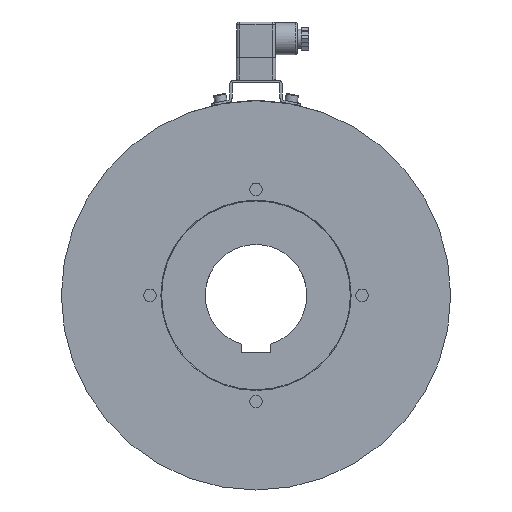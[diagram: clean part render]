
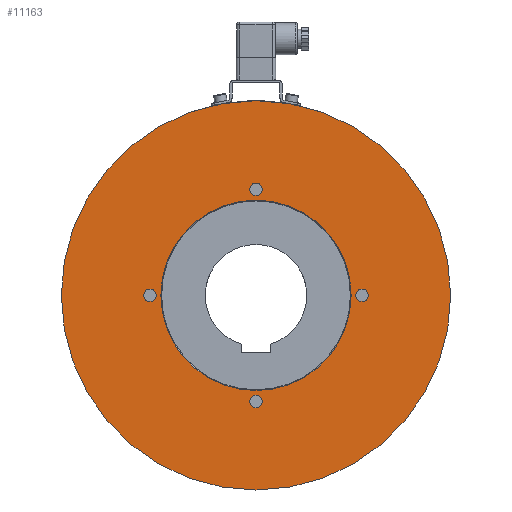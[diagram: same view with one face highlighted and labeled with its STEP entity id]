
A CAD part, left-side view. The second image highlights one B-rep face of the part: STEP entity #11163.
In plain terms, the highlighted planar face has unit normal (-1, 0, 0).
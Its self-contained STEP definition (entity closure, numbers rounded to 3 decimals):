
#150=FACE_BOUND('',#1161,.T.);
#151=FACE_BOUND('',#1162,.T.);
#152=FACE_BOUND('',#1163,.T.);
#153=FACE_BOUND('',#1164,.T.);
#154=FACE_BOUND('',#1165,.T.);
#296=PLANE('',#11922);
#565=FACE_OUTER_BOUND('',#1160,.T.);
#1160=EDGE_LOOP('',(#7455,#7456,#7457));
#1161=EDGE_LOOP('',(#7458,#7459));
#1162=EDGE_LOOP('',(#7460,#7461));
#1163=EDGE_LOOP('',(#7462,#7463));
#1164=EDGE_LOOP('',(#7464,#7465));
#1165=EDGE_LOOP('',(#7466));
#1803=CIRCLE('',#11673,134.);
#1804=CIRCLE('',#11674,134.);
#1939=CIRCLE('',#11885,134.);
#1943=CIRCLE('',#11891,65.5);
#1946=CIRCLE('',#11899,4.25);
#1947=CIRCLE('',#11900,4.25);
#1948=CIRCLE('',#11902,4.25);
#1949=CIRCLE('',#11903,4.25);
#1950=CIRCLE('',#11905,4.25);
#1951=CIRCLE('',#11906,4.25);
#1952=CIRCLE('',#11908,4.25);
#1953=CIRCLE('',#11909,4.25);
#4033=VERTEX_POINT('',#16958);
#4034=VERTEX_POINT('',#16960);
#4035=VERTEX_POINT('',#16962);
#4244=VERTEX_POINT('',#17765);
#4246=VERTEX_POINT('',#17800);
#4247=VERTEX_POINT('',#17801);
#4248=VERTEX_POINT('',#17806);
#4249=VERTEX_POINT('',#17807);
#4250=VERTEX_POINT('',#17812);
#4251=VERTEX_POINT('',#17813);
#4252=VERTEX_POINT('',#17818);
#4253=VERTEX_POINT('',#17819);
#5174=EDGE_CURVE('',#4034,#4033,#1803,.T.);
#5175=EDGE_CURVE('',#4035,#4034,#1804,.T.);
#5449=EDGE_CURVE('',#4033,#4035,#1939,.T.);
#5459=EDGE_CURVE('',#4244,#4244,#1943,.T.);
#5467=EDGE_CURVE('',#4246,#4247,#1946,.T.);
#5468=EDGE_CURVE('',#4247,#4246,#1947,.T.);
#5470=EDGE_CURVE('',#4248,#4249,#1948,.T.);
#5471=EDGE_CURVE('',#4249,#4248,#1949,.T.);
#5473=EDGE_CURVE('',#4250,#4251,#1950,.T.);
#5474=EDGE_CURVE('',#4251,#4250,#1951,.T.);
#5476=EDGE_CURVE('',#4252,#4253,#1952,.T.);
#5477=EDGE_CURVE('',#4253,#4252,#1953,.T.);
#7455=ORIENTED_EDGE('',*,*,#5174,.T.);
#7456=ORIENTED_EDGE('',*,*,#5449,.T.);
#7457=ORIENTED_EDGE('',*,*,#5175,.T.);
#7458=ORIENTED_EDGE('',*,*,#5476,.T.);
#7459=ORIENTED_EDGE('',*,*,#5477,.T.);
#7460=ORIENTED_EDGE('',*,*,#5473,.T.);
#7461=ORIENTED_EDGE('',*,*,#5474,.T.);
#7462=ORIENTED_EDGE('',*,*,#5470,.T.);
#7463=ORIENTED_EDGE('',*,*,#5471,.T.);
#7464=ORIENTED_EDGE('',*,*,#5467,.T.);
#7465=ORIENTED_EDGE('',*,*,#5468,.T.);
#7466=ORIENTED_EDGE('',*,*,#5459,.F.);
#11163=ADVANCED_FACE('',(#565,#150,#151,#152,#153,#154),#296,.T.);
#11673=AXIS2_PLACEMENT_3D('',#16961,#13230,#13231);
#11674=AXIS2_PLACEMENT_3D('',#16963,#13232,#13233);
#11885=AXIS2_PLACEMENT_3D('',#17715,#13765,#13766);
#11891=AXIS2_PLACEMENT_3D('',#17767,#13781,#13782);
#11899=AXIS2_PLACEMENT_3D('',#17802,#13799,#13800);
#11900=AXIS2_PLACEMENT_3D('',#17803,#13801,#13802);
#11902=AXIS2_PLACEMENT_3D('',#17808,#13806,#13807);
#11903=AXIS2_PLACEMENT_3D('',#17809,#13808,#13809);
#11905=AXIS2_PLACEMENT_3D('',#17814,#13813,#13814);
#11906=AXIS2_PLACEMENT_3D('',#17815,#13815,#13816);
#11908=AXIS2_PLACEMENT_3D('',#17820,#13820,#13821);
#11909=AXIS2_PLACEMENT_3D('',#17821,#13822,#13823);
#11922=AXIS2_PLACEMENT_3D('',#17845,#13851,#13852);
#13230=DIRECTION('center_axis',(-1.,0.,0.));
#13231=DIRECTION('ref_axis',(0.,1.,0.));
#13232=DIRECTION('center_axis',(-1.,0.,0.));
#13233=DIRECTION('ref_axis',(0.,1.,0.));
#13765=DIRECTION('center_axis',(-1.,0.,0.));
#13766=DIRECTION('ref_axis',(0.,1.,0.));
#13781=DIRECTION('center_axis',(-1.,0.,0.));
#13782=DIRECTION('ref_axis',(0.,-1.,0.));
#13799=DIRECTION('center_axis',(1.,0.,0.));
#13800=DIRECTION('ref_axis',(0.,1.,0.));
#13801=DIRECTION('center_axis',(1.,0.,0.));
#13802=DIRECTION('ref_axis',(0.,1.,0.));
#13806=DIRECTION('center_axis',(1.,0.,0.));
#13807=DIRECTION('ref_axis',(0.,1.,0.));
#13808=DIRECTION('center_axis',(1.,0.,0.));
#13809=DIRECTION('ref_axis',(0.,1.,0.));
#13813=DIRECTION('center_axis',(1.,0.,0.));
#13814=DIRECTION('ref_axis',(0.,1.,0.));
#13815=DIRECTION('center_axis',(1.,0.,0.));
#13816=DIRECTION('ref_axis',(0.,1.,0.));
#13820=DIRECTION('center_axis',(1.,0.,0.));
#13821=DIRECTION('ref_axis',(0.,1.,0.));
#13822=DIRECTION('center_axis',(1.,0.,0.));
#13823=DIRECTION('ref_axis',(0.,1.,0.));
#13851=DIRECTION('center_axis',(-1.,0.,0.));
#13852=DIRECTION('ref_axis',(0.,0.,
1.));
#16958=CARTESIAN_POINT('',(-19.8,-134.,0.));
#16960=CARTESIAN_POINT('',(-19.8,134.,0.));
#16961=CARTESIAN_POINT('Origin',(-19.8,0.,0.));
#16962=CARTESIAN_POINT('',(-19.8,23.269,131.964));
#16963=CARTESIAN_POINT('Origin',(-19.8,0.,0.));
#17715=CARTESIAN_POINT('Origin',(-19.8,0.,0.));
#17765=CARTESIAN_POINT('',(-19.8,65.5,0.));
#17767=CARTESIAN_POINT('Origin',(-19.8,0.,0.));
#17800=CARTESIAN_POINT('',(-19.8,-68.75,0.));
#17801=CARTESIAN_POINT('',(-19.8,-77.25,0.));
#17802=CARTESIAN_POINT('Origin',(-19.8,-73.,0.));
#17803=CARTESIAN_POINT('Origin',(-19.8,-73.,0.));
#17806=CARTESIAN_POINT('',(-19.8,77.25,0.));
#17807=CARTESIAN_POINT('',(-19.8,68.75,0.));
#17808=CARTESIAN_POINT('Origin',(-19.8,73.,0.));
#17809=CARTESIAN_POINT('Origin',(-19.8,73.,0.));
#17812=CARTESIAN_POINT('',(-19.8,4.25,73.));
#17813=CARTESIAN_POINT('',(-19.8,-4.25,73.));
#17814=CARTESIAN_POINT('Origin',(-19.8,0.,73.));
#17815=CARTESIAN_POINT('Origin',(-19.8,0.,73.));
#17818=CARTESIAN_POINT('',(-19.8,4.25,-73.));
#17819=CARTESIAN_POINT('',(-19.8,-4.25,-73.));
#17820=CARTESIAN_POINT('Origin',(-19.8,0.,-73.));
#17821=CARTESIAN_POINT('Origin',(-19.8,0.,-73.));
#17845=CARTESIAN_POINT('Origin',(-19.8,99.5,0.));
